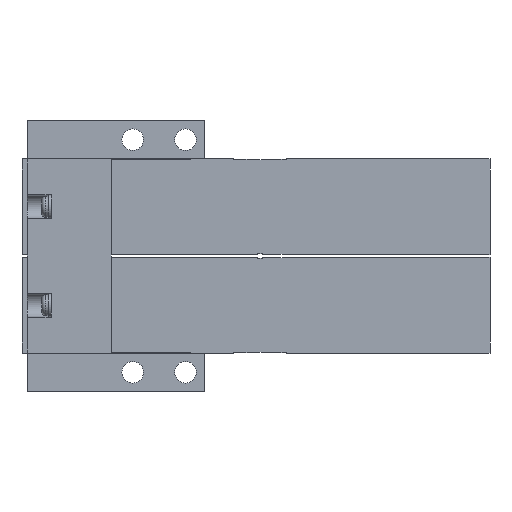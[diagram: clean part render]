
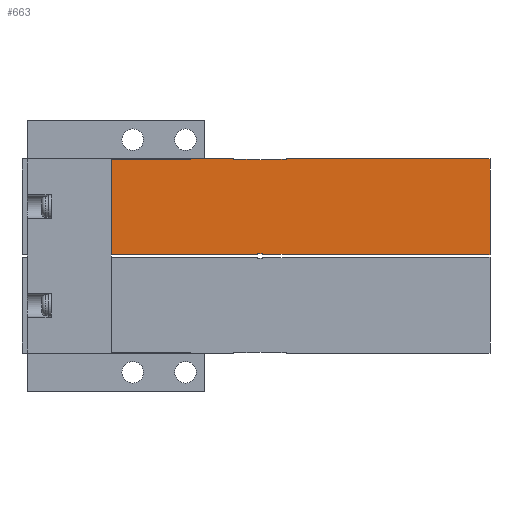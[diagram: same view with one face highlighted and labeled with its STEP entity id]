
A CAD part, front view. The second image highlights one B-rep face of the part: STEP entity #663.
In plain terms, the highlighted planar face has unit normal (0, -1, 0).
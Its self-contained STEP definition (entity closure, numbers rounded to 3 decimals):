
#663=ADVANCED_FACE('',(#1441),#1442,.F.);
#1441=FACE_OUTER_BOUND('',#2408,.T.);
#1442=PLANE('',#2409);
#2408=EDGE_LOOP('',(#5199,#5200,#5201,#5202,#5203,#5204,#5205,#5206,#5207,#5208,#5209,#5210,#5211,#5212,#5213,#5214,#5215,#5216,#5217,#5218,#5219,#5220,#5221,#5222));
#2409=AXIS2_PLACEMENT_3D('',#5223,#5224,#5225);
#5199=ORIENTED_EDGE('',*,*,#6964,.F.);
#5200=ORIENTED_EDGE('',*,*,#6873,.T.);
#5201=ORIENTED_EDGE('',*,*,#7013,.T.);
#5202=ORIENTED_EDGE('',*,*,#7014,.F.);
#5203=ORIENTED_EDGE('',*,*,#6989,.F.);
#5204=ORIENTED_EDGE('',*,*,#6968,.T.);
#5205=ORIENTED_EDGE('',*,*,#6900,.F.);
#5206=ORIENTED_EDGE('',*,*,#6896,.T.);
#5207=ORIENTED_EDGE('',*,*,#7015,.F.);
#5208=ORIENTED_EDGE('',*,*,#6808,.T.);
#5209=ORIENTED_EDGE('',*,*,#7016,.T.);
#5210=ORIENTED_EDGE('',*,*,#7017,.T.);
#5211=ORIENTED_EDGE('',*,*,#6829,.T.);
#5212=ORIENTED_EDGE('',*,*,#7018,.F.);
#5213=ORIENTED_EDGE('',*,*,#6943,.T.);
#5214=ORIENTED_EDGE('',*,*,#7019,.F.);
#5215=ORIENTED_EDGE('',*,*,#7020,.T.);
#5216=ORIENTED_EDGE('',*,*,#6869,.T.);
#5217=ORIENTED_EDGE('',*,*,#7021,.T.);
#5218=ORIENTED_EDGE('',*,*,#6962,.T.);
#5219=ORIENTED_EDGE('',*,*,#7022,.T.);
#5220=ORIENTED_EDGE('',*,*,#6826,.F.);
#5221=ORIENTED_EDGE('',*,*,#7023,.F.);
#5222=ORIENTED_EDGE('',*,*,#6921,.F.);
#5223=CARTESIAN_POINT('',(18.6,0.0,10.0));
#5224=DIRECTION('',(-0.0,1.0,0.0));
#5225=DIRECTION('',(1.0,0.0,0.0));
#6808=EDGE_CURVE('',#8333,#8331,#8334,.T.);
#6826=EDGE_CURVE('',#8367,#8362,#8369,.T.);
#6829=EDGE_CURVE('',#8375,#8373,#8376,.T.);
#6869=EDGE_CURVE('',#8451,#8449,#8452,.T.);
#6873=EDGE_CURVE('',#8444,#8457,#8459,.T.);
#6896=EDGE_CURVE('',#8500,#8498,#8501,.T.);
#6900=EDGE_CURVE('',#8500,#8504,#8507,.T.);
#6921=EDGE_CURVE('',#8540,#8543,#8544,.T.);
#6943=EDGE_CURVE('',#8582,#8580,#8583,.T.);
#6962=EDGE_CURVE('',#8617,#8615,#8618,.T.);
#6964=EDGE_CURVE('',#8444,#8540,#8620,.T.);
#6968=EDGE_CURVE('',#8625,#8504,#8626,.T.);
#6989=EDGE_CURVE('',#8625,#8657,#8658,.T.);
#7013=EDGE_CURVE('',#8457,#8696,#8697,.T.);
#7014=EDGE_CURVE('',#8657,#8696,#8698,.T.);
#7015=EDGE_CURVE('',#8333,#8498,#8699,.T.);
#7016=EDGE_CURVE('',#8331,#8700,#8701,.T.);
#7017=EDGE_CURVE('',#8700,#8375,#8702,.T.);
#7018=EDGE_CURVE('',#8582,#8373,#8703,.T.);
#7019=EDGE_CURVE('',#8704,#8580,#8705,.T.);
#7020=EDGE_CURVE('',#8704,#8451,#8706,.T.);
#7021=EDGE_CURVE('',#8449,#8617,#8707,.T.);
#7022=EDGE_CURVE('',#8615,#8362,#8708,.T.);
#7023=EDGE_CURVE('',#8543,#8367,#8709,.T.);
#8331=VERTEX_POINT('',#10767);
#8333=VERTEX_POINT('',#10770);
#8334=LINE('',#10771,#10772);
#8362=VERTEX_POINT('',#10838);
#8367=VERTEX_POINT('',#10845);
#8369=LINE('',#10848,#10849);
#8373=VERTEX_POINT('',#10853);
#8375=VERTEX_POINT('',#10856);
#8376=LINE('',#10857,#10858);
#8444=VERTEX_POINT('',#10959);
#8449=VERTEX_POINT('',#10966);
#8451=VERTEX_POINT('',#10969);
#8452=LINE('',#10970,#10971);
#8457=VERTEX_POINT('',#10978);
#8459=LINE('',#10981,#10982);
#8498=VERTEX_POINT('',#11042);
#8500=VERTEX_POINT('',#11045);
#8501=LINE('',#11046,#11047);
#8504=VERTEX_POINT('',#11051);
#8507=LINE('',#11056,#11057);
#8540=VERTEX_POINT('',#11127);
#8543=VERTEX_POINT('',#11131);
#8544=LINE('',#11132,#11133);
#8580=VERTEX_POINT('',#11186);
#8582=VERTEX_POINT('',#11189);
#8583=LINE('',#11190,#11191);
#8615=VERTEX_POINT('',#11239);
#8617=VERTEX_POINT('',#11242);
#8618=LINE('',#11243,#11244);
#8620=LINE('',#11247,#11248);
#8625=VERTEX_POINT('',#11256);
#8626=LINE('',#11257,#11258);
#8657=VERTEX_POINT('',#11309);
#8658=LINE('',#11310,#11311);
#8696=VERTEX_POINT('',#11396);
#8697=LINE('',#11397,#11398);
#8698=LINE('',#11399,#11400);
#8699=LINE('',#11401,#11402);
#8700=VERTEX_POINT('',#11403);
#8701=LINE('',#11404,#11405);
#8702=LINE('',#11406,#11407);
#8703=LINE('',#11408,#11409);
#8704=VERTEX_POINT('',#11410);
#8705=LINE('',#11411,#11412);
#8706=LINE('',#11413,#11414);
#8707=LINE('',#11415,#11416);
#8708=LINE('',#11417,#11418);
#8709=LINE('',#11419,#11420);
#10767=CARTESIAN_POINT('',(18.6,0.0,-9.9));
#10770=CARTESIAN_POINT('',(18.6,0.0,9.9));
#10771=CARTESIAN_POINT('',(18.6,0.0,10.0));
#10772=VECTOR('',#12772,1.0);
#10838=CARTESIAN_POINT('',(97.6,0.0,-10.0));
#10845=CARTESIAN_POINT('',(97.6,0.0,10.0));
#10848=CARTESIAN_POINT('',(97.6,0.0,10.0));
#10849=VECTOR('',#12793,1.0);
#10853=CARTESIAN_POINT('',(44.1,0.0,-10.0));
#10856=CARTESIAN_POINT('',(35.1,0.0,-10.0));
#10857=CARTESIAN_POINT('',(18.6,0.0,-10.0));
#10858=VECTOR('',#12798,1.0);
#10959=CARTESIAN_POINT('',(50.1,0.0,9.9));
#10966=CARTESIAN_POINT('',(50.1,0.0,-9.9));
#10969=CARTESIAN_POINT('',(50.1,0.0,-9.8));
#10970=CARTESIAN_POINT('',(50.1,0.0,10.0));
#10971=VECTOR('',#12844,1.0);
#10978=CARTESIAN_POINT('',(50.1,0.0,9.8));
#10981=CARTESIAN_POINT('',(50.1,0.0,10.0));
#10982=VECTOR('',#12848,1.0);
#11042=CARTESIAN_POINT('',(35.1,0.0,9.9));
#11045=CARTESIAN_POINT('',(35.1,0.0,10.0));
#11046=CARTESIAN_POINT('',(35.1,0.0,10.1));
#11047=VECTOR('',#12871,1.0);
#11051=CARTESIAN_POINT('',(44.1,0.0,10.0));
#11056=CARTESIAN_POINT('',(18.6,0.0,10.0));
#11057=VECTOR('',#12875,1.0);
#11127=CARTESIAN_POINT('',(55.1,0.0,9.9));
#11131=CARTESIAN_POINT('',(55.1,0.0,10.0));
#11132=CARTESIAN_POINT('',(55.1,0.0,9.9));
#11133=VECTOR('',#12903,1.0);
#11186=CARTESIAN_POINT('',(49.1,0.0,-9.9));
#11189=CARTESIAN_POINT('',(44.1,0.0,-9.9));
#11190=CARTESIAN_POINT('',(44.1,0.0,-9.9));
#11191=VECTOR('',#12931,1.0);
#11239=CARTESIAN_POINT('',(55.1,0.0,-10.0));
#11242=CARTESIAN_POINT('',(55.1,0.0,-9.9));
#11243=CARTESIAN_POINT('',(55.1,0.0,-9.9));
#11244=VECTOR('',#12952,1.0);
#11247=CARTESIAN_POINT('',(44.1,0.0,9.9));
#11248=VECTOR('',#12954,1.0);
#11256=CARTESIAN_POINT('',(44.1,0.0,9.9));
#11257=CARTESIAN_POINT('',(44.1,0.0,9.9));
#11258=VECTOR('',#12958,1.0);
#11309=CARTESIAN_POINT('',(49.1,0.0,9.9));
#11310=CARTESIAN_POINT('',(44.1,0.0,9.9));
#11311=VECTOR('',#12979,1.0);
#11396=CARTESIAN_POINT('',(49.1,0.0,9.8));
#11397=CARTESIAN_POINT('',(18.6,0.0,9.8));
#11398=VECTOR('',#13006,1.0);
#11399=CARTESIAN_POINT('',(49.1,0.0,10.0));
#11400=VECTOR('',#13007,1.0);
#11401=CARTESIAN_POINT('',(18.6,0.0,9.9));
#11402=VECTOR('',#13008,1.0);
#11403=CARTESIAN_POINT('',(35.1,0.0,-9.9));
#11404=CARTESIAN_POINT('',(18.6,0.0,-9.9));
#11405=VECTOR('',#13009,1.0);
#11406=CARTESIAN_POINT('',(35.1,0.0,-9.9));
#11407=VECTOR('',#13010,1.0);
#11408=CARTESIAN_POINT('',(44.1,0.0,-9.9));
#11409=VECTOR('',#13011,1.0);
#11410=CARTESIAN_POINT('',(49.1,0.0,-9.8));
#11411=CARTESIAN_POINT('',(49.1,0.0,10.0));
#11412=VECTOR('',#13012,1.0);
#11413=CARTESIAN_POINT('',(18.6,0.0,-9.8));
#11414=VECTOR('',#13013,1.0);
#11415=CARTESIAN_POINT('',(44.1,0.0,-9.9));
#11416=VECTOR('',#13014,1.0);
#11417=CARTESIAN_POINT('',(18.6,0.0,-10.0));
#11418=VECTOR('',#13015,1.0);
#11419=CARTESIAN_POINT('',(18.6,0.0,10.0));
#11420=VECTOR('',#13016,1.0);
#12772=DIRECTION('',(0.0,0.0,-1.0));
#12793=DIRECTION('',(0.0,0.0,-1.0));
#12798=DIRECTION('',(1.0,0.0,0.0));
#12844=DIRECTION('',(0.0,0.0,-1.0));
#12848=DIRECTION('',(0.0,0.0,-1.0));
#12871=DIRECTION('',(0.0,0.0,-1.0));
#12875=DIRECTION('',(1.0,0.0,0.0));
#12903=DIRECTION('',(0.0,0.0,1.0));
#12931=DIRECTION('',(1.0,0.0,0.0));
#12952=DIRECTION('',(0.0,0.0,-1.0));
#12954=DIRECTION('',(1.0,0.0,0.0));
#12958=DIRECTION('',(0.0,0.0,1.0));
#12979=DIRECTION('',(1.0,0.0,0.0));
#13006=DIRECTION('',(-1.0,0.0,0.0));
#13007=DIRECTION('',(0.0,0.0,-1.0));
#13008=DIRECTION('',(1.0,0.0,0.0));
#13009=DIRECTION('',(1.0,0.0,0.0));
#13010=DIRECTION('',(0.0,0.0,-1.0));
#13011=DIRECTION('',(0.0,0.0,-1.0));
#13012=DIRECTION('',(0.0,0.0,-1.0));
#13013=DIRECTION('',(1.0,0.0,0.0));
#13014=DIRECTION('',(1.0,0.0,0.0));
#13015=DIRECTION('',(1.0,0.0,0.0));
#13016=DIRECTION('',(1.0,0.0,0.0));
